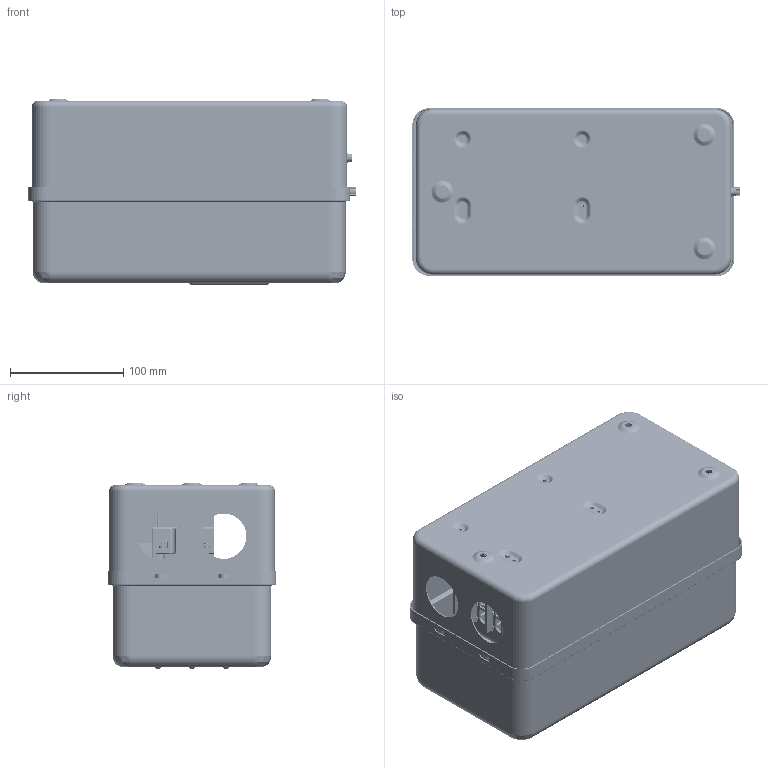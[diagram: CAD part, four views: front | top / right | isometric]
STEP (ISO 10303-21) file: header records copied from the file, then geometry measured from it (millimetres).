
FILE_DESCRIPTION((''),'2;1');
FILE_NAME('CDS2S-63B_ASM','2021-05-24T',('yunfei.yang'),(''),'PRO/ENGINEER BY PARAMETRIC TECHNOLOGY CORPORATION, 2015440','PRO/ENGINEER BY PARAMETRIC TECHNOLOGY CORPORATION, 2015440','');
FILE_SCHEMA(('CONFIG_CONTROL_DESIGN'));
Products named in the file (36): 8004002300; PRT0049; PRT0050; PRT0051; PRT0052; PRT0053; PRT0054; PRT0055; PRT0056; PRT0057; PRT0058; PRT0059; PRT0060; PRT0061; ASM0014_ASM; ASM0013_ASM; PRT0036; PRT0037; PRT0038; PRT0039; PRT0040; PRT0041; PRT0042; PRT0043; PRT0044; PRT0045; PRT0046; PRT0047; PRT0048; ASM0012_ASM; ASM0011_ASM; 7010100511K_GB_T9074_4_M4X16; 7030100424_GB_T9074_8_M4X12; 8004002400; PRT02; CDS2S-63B_ASM
Assembly tree (36 placements, depth 4):
  CDS2S-63B_ASM
    8004002300
    ASM0013_ASM
      ASM0014_ASM
        PRT0049
        PRT0050
        PRT0051
        PRT0052
        PRT0053
        PRT0054
        PRT0055
        PRT0056
        PRT0057
        PRT0058
        PRT0059
        PRT0060
        PRT0061
    ASM0011_ASM
      ASM0012_ASM
        PRT0036
        PRT0037
        PRT0038
        PRT0039
        PRT0040
        PRT0041
        PRT0042
        PRT0043
        PRT0044
        PRT0045
        PRT0046
        PRT0047
        PRT0048
    7010100511K_GB_T9074_4_M4X16  x2
    7030100424_GB_T9074_8_M4X12
    8004002400
    PRT02
Bounding box: 288.99 x 147.8 x 164.2 mm (x, y, z)
Volume: 1012342.8 mm3; surface area: 684356.2 mm2
Topology: 33 solids, 46 shells, 11221 faces, 31110 edges, 19897 vertices
Faces by surface type: plane 7037, cylinder 2442, extrusion 722, torus 322, cone 294, bspline 236, sphere 168
Entity records: 377008 total; most frequent: CARTESIAN_POINT 92163, ORIENTED_EDGE 61734, DIRECTION 55407, EDGE_CURVE 30887, VECTOR 22421, LINE 21699, VERTEX_POINT 19845, AXIS2_PLACEMENT_3D 16493
